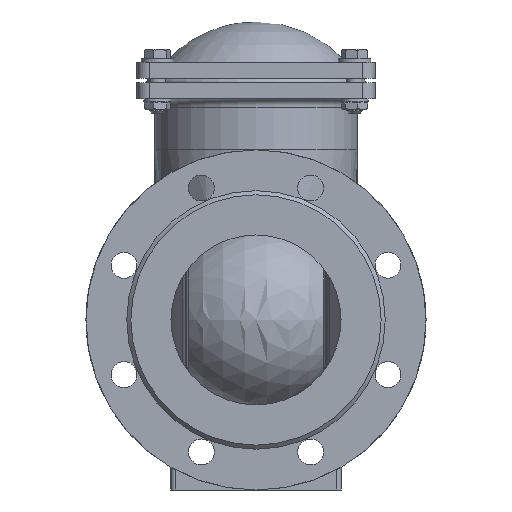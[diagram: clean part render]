
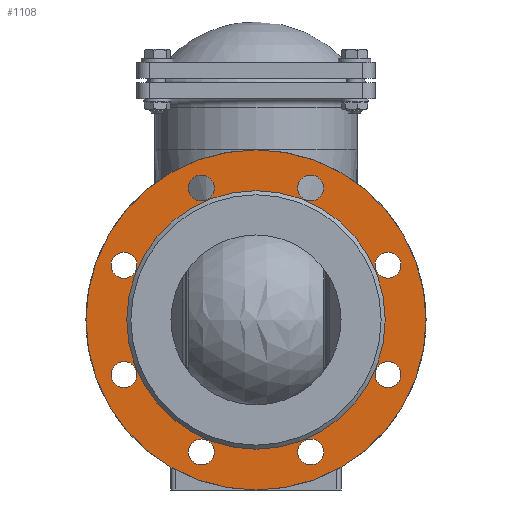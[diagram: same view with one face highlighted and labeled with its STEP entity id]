
A CAD part, left-side view. The second image highlights one B-rep face of the part: STEP entity #1108.
In plain terms, the highlighted planar face has unit normal (-1, 0, 0).
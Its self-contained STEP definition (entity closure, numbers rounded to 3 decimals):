
#1108=ADVANCED_FACE('',(#4359,#4361,#4363,#4365,#4367,#4369,#4371,#4373,#4375,#4377),
#4379,.F.);
#4359=FACE_BOUND('',#4360,.T.);
#4360=EDGE_LOOP('',(#9153));
#4361=FACE_BOUND('',#4362,.T.);
#4362=EDGE_LOOP('',(#9154));
#4363=FACE_BOUND('',#4364,.T.);
#4364=EDGE_LOOP('',(#9155));
#4365=FACE_BOUND('',#4366,.T.);
#4366=EDGE_LOOP('',(#9156));
#4367=FACE_BOUND('',#4368,.T.);
#4368=EDGE_LOOP('',(#9157));
#4369=FACE_BOUND('',#4370,.T.);
#4370=EDGE_LOOP('',(#9158));
#4371=FACE_BOUND('',#4372,.T.);
#4372=EDGE_LOOP('',(#9159));
#4373=FACE_BOUND('',#4374,.T.);
#4374=EDGE_LOOP('',(#9160));
#4375=FACE_BOUND('',#4376,.T.);
#4376=EDGE_LOOP('',(#9161));
#4377=FACE_BOUND('',#4378,.T.);
#4378=EDGE_LOOP('',(#9162));
#4379=PLANE('',#4380);
#4380=AXIS2_PLACEMENT_3D('',#4381,#4382,#4383);
#4381=CARTESIAN_POINT('',(-347.,0.,0.));
#4382=DIRECTION('',(1.,0.,0.));
#4383=DIRECTION('',(0.,0.,1.));
#9153=ORIENTED_EDGE('',*,*,#11746,.T.);
#9154=ORIENTED_EDGE('',*,*,#11747,.T.);
#9155=ORIENTED_EDGE('',*,*,#11748,.T.);
#9156=ORIENTED_EDGE('',*,*,#11749,.T.);
#9157=ORIENTED_EDGE('',*,*,#11750,.T.);
#9158=ORIENTED_EDGE('',*,*,#11751,.T.);
#9159=ORIENTED_EDGE('',*,*,#11752,.T.);
#9160=ORIENTED_EDGE('',*,*,#11753,.T.);
#9161=ORIENTED_EDGE('',*,*,#11754,.T.);
#9162=ORIENTED_EDGE('',*,*,#11731,.F.);
#11731=EDGE_CURVE('',#12901,#12901,#12902,.T.);
#11746=EDGE_CURVE('',#12929,#12929,#12930,.T.);
#11747=EDGE_CURVE('',#12931,#12931,#12932,.T.);
#11748=EDGE_CURVE('',#12933,#12933,#12934,.T.);
#11749=EDGE_CURVE('',#12935,#12935,#12936,.T.);
#11750=EDGE_CURVE('',#12937,#12937,#12938,.T.);
#11751=EDGE_CURVE('',#12939,#12939,#12940,.T.);
#11752=EDGE_CURVE('',#12941,#12941,#12942,.T.);
#11753=EDGE_CURVE('',#12943,#12943,#12944,.T.);
#11754=EDGE_CURVE('',#12945,#12945,#12946,.T.);
#12901=VERTEX_POINT('',#16063);
#12902=CIRCLE('',#16064,95.);
#12929=VERTEX_POINT('',#16394);
#12930=CIRCLE('',#16395,125.);
#12931=VERTEX_POINT('',#16399);
#12932=CIRCLE('',#16400,9.5);
#12933=VERTEX_POINT('',#16404);
#12934=CIRCLE('',#16405,9.5);
#12935=VERTEX_POINT('',#16409);
#12936=CIRCLE('',#16410,9.5);
#12937=VERTEX_POINT('',#16414);
#12938=CIRCLE('',#16415,9.5);
#12939=VERTEX_POINT('',#16419);
#12940=CIRCLE('',#16420,9.5);
#12941=VERTEX_POINT('',#16424);
#12942=CIRCLE('',#16425,9.5);
#12943=VERTEX_POINT('',#16429);
#12944=CIRCLE('',#16430,9.5);
#12945=VERTEX_POINT('',#16434);
#12946=CIRCLE('',#16435,9.5);
#16063=CARTESIAN_POINT('',(-347.,0.,95.));
#16064=AXIS2_PLACEMENT_3D('',#16065,#16066,#16067);
#16065=CARTESIAN_POINT('',(-347.,0.,0.));
#16066=DIRECTION('',(-1.,0.,0.));
#16067=DIRECTION('',(0.,0.,1.));
#16394=CARTESIAN_POINT('',(-347.,0.,125.));
#16395=AXIS2_PLACEMENT_3D('',#16396,#16397,#16398);
#16396=CARTESIAN_POINT('',(-347.,0.,0.));
#16397=DIRECTION('',(-1.,0.,0.));
#16398=DIRECTION('',(0.,0.,1.));
#16399=CARTESIAN_POINT('',(-347.,106.507,40.182));
#16400=AXIS2_PLACEMENT_3D('',#16401,#16402,#16403);
#16401=CARTESIAN_POINT('',(-347.,97.007,40.182));
#16402=DIRECTION('',(1.,0.,0.));
#16403=DIRECTION('',(0.,1.,0.));
#16404=CARTESIAN_POINT('',(-347.,46.899,103.725));
#16405=AXIS2_PLACEMENT_3D('',#16406,#16407,#16408);
#16406=CARTESIAN_POINT('',(-347.,40.182,97.007));
#16407=DIRECTION('',(1.,0.,0.));
#16408=DIRECTION('',(0.,0.707,0.707));
#16409=CARTESIAN_POINT('',(-347.,-40.182,106.507));
#16410=AXIS2_PLACEMENT_3D('',#16411,#16412,#16413);
#16411=CARTESIAN_POINT('',(-347.,-40.182,97.007));
#16412=DIRECTION('',(1.,0.,0.));
#16413=DIRECTION('',(0.,0.,1.));
#16414=CARTESIAN_POINT('',(-347.,-103.725,46.899));
#16415=AXIS2_PLACEMENT_3D('',#16416,#16417,#16418);
#16416=CARTESIAN_POINT('',(-347.,-97.007,40.182));
#16417=DIRECTION('',(1.,0.,0.));
#16418=DIRECTION('',(0.,-0.707,0.707));
#16419=CARTESIAN_POINT('',(-347.,-106.507,-40.182));
#16420=AXIS2_PLACEMENT_3D('',#16421,#16422,#16423);
#16421=CARTESIAN_POINT('',(-347.,-97.007,-40.182));
#16422=DIRECTION('',(1.,0.,0.));
#16423=DIRECTION('',(0.,-1.,0.));
#16424=CARTESIAN_POINT('',(-347.,-46.899,-103.725));
#16425=AXIS2_PLACEMENT_3D('',#16426,#16427,#16428);
#16426=CARTESIAN_POINT('',(-347.,-40.182,-97.007));
#16427=DIRECTION('',(1.,0.,0.));
#16428=DIRECTION('',(0.,-0.707,-0.707));
#16429=CARTESIAN_POINT('',(-347.,40.182,-106.507));
#16430=AXIS2_PLACEMENT_3D('',#16431,#16432,#16433);
#16431=CARTESIAN_POINT('',(-347.,40.182,-97.007));
#16432=DIRECTION('',(1.,0.,0.));
#16433=DIRECTION('',(0.,0.,-1.));
#16434=CARTESIAN_POINT('',(-347.,103.725,-46.899));
#16435=AXIS2_PLACEMENT_3D('',#16436,#16437,#16438);
#16436=CARTESIAN_POINT('',(-347.,97.007,-40.182));
#16437=DIRECTION('',(1.,0.,0.));
#16438=DIRECTION('',(0.,0.707,-0.707));
